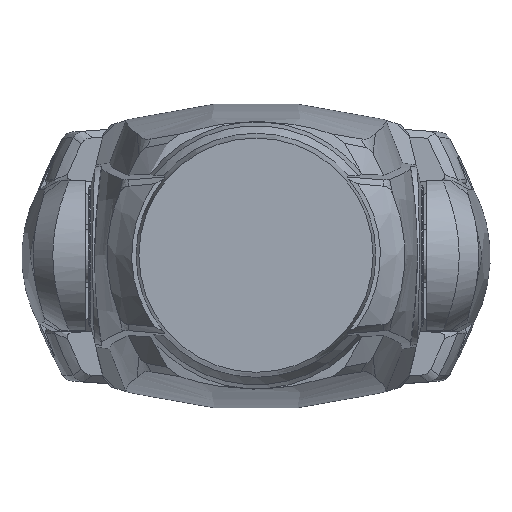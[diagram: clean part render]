
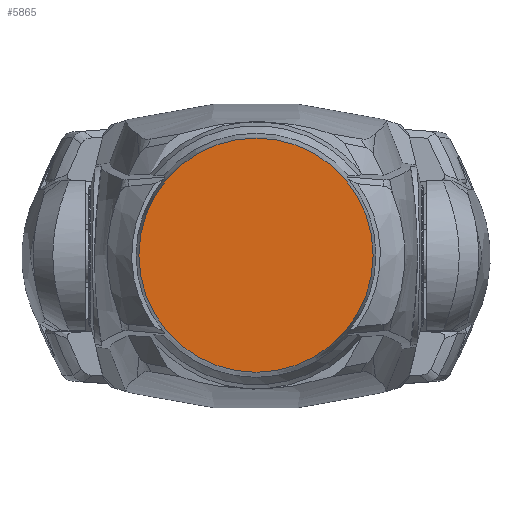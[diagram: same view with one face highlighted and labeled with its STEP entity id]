
A CAD part, top view. The second image highlights one B-rep face of the part: STEP entity #5865.
In plain terms, the highlighted planar face has unit normal (0, 0, 1).
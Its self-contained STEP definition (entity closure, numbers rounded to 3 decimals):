
#286=CIRCLE('',#6107,98.104);
#3180=ORIENTED_EDGE('',*,*,#3682,.F.);
#3682=EDGE_CURVE('',#4422,#4422,#286,.T.);
#4422=VERTEX_POINT('',#10874);
#5068=EDGE_LOOP('',(#3180));
#5413=FACE_BOUND('',#5068,.T.);
#5538=PLANE('',#6225);
#5865=ADVANCED_FACE('',(#5413),#5538,.F.);
#6107=AXIS2_PLACEMENT_3D('',#10873,#6839,#6840);
#6225=AXIS2_PLACEMENT_3D('',#18903,#7171,#7172);
#6839=DIRECTION('',(0.,0.,-1.));
#6840=DIRECTION('',(-1.,0.,0.));
#7171=DIRECTION('',(0.,0.,-1.));
#7172=DIRECTION('',(-1.,0.,0.));
#10873=CARTESIAN_POINT('',(0.,0.,306.5));
#10874=CARTESIAN_POINT('',(-98.104,0.,306.5));
#18903=CARTESIAN_POINT('',(-87.502,0.,306.5));
